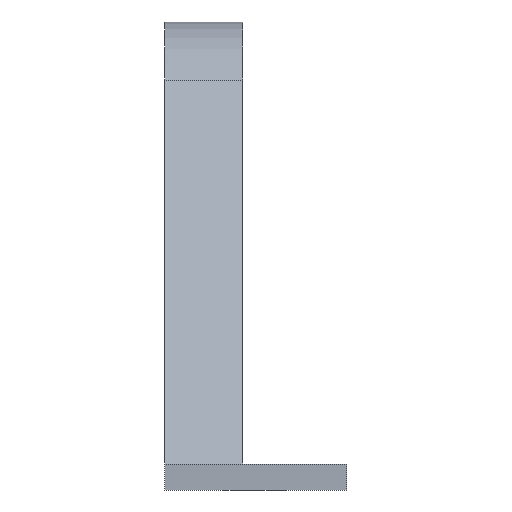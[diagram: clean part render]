
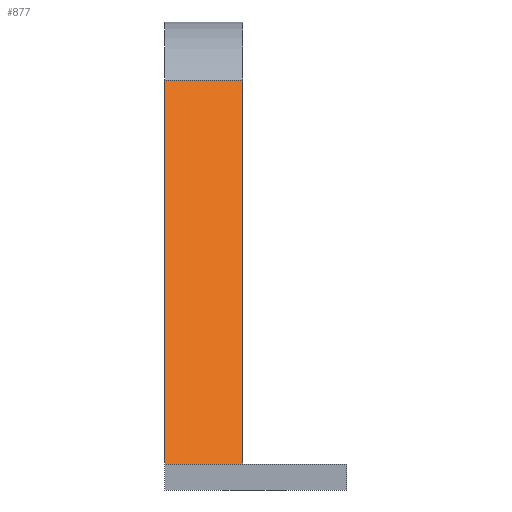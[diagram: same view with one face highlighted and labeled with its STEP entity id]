
A CAD part, front view. The second image highlights one B-rep face of the part: STEP entity #877.
In plain terms, the highlighted planar face has unit normal (0, -0.864, 0.504).
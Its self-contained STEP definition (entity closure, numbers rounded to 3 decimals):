
#72 = PLANE('',#73);
#73 = AXIS2_PLACEMENT_3D('',#74,#75,#76);
#74 = CARTESIAN_POINT('',(3.5,22.5,1.));
#75 = DIRECTION('',(0.,0.,1.));
#76 = DIRECTION('',(1.,0.,0.));
#195 = VERTEX_POINT('',#196);
#196 = CARTESIAN_POINT('',(0.,10.,1.));
#210 = PLANE('',#211);
#211 = AXIS2_PLACEMENT_3D('',#212,#213,#214);
#212 = CARTESIAN_POINT('',(0.,35.,1.));
#213 = DIRECTION('',(1.,0.,0.));
#214 = DIRECTION('',(0.,-1.,0.));
#482 = VERTEX_POINT('',#483);
#483 = CARTESIAN_POINT('',(3.,10.,1.));
#497 = PLANE('',#498);
#498 = AXIS2_PLACEMENT_3D('',#499,#500,#501);
#499 = CARTESIAN_POINT('',(3.,10.,1.));
#500 = DIRECTION('',(-1.,0.,0.));
#501 = DIRECTION('',(0.,1.,0.));
#509 = EDGE_CURVE('',#195,#482,#510,.T.);
#510 = SURFACE_CURVE('',#511,(#515,#522),.PCURVE_S1.);
#511 = LINE('',#512,#513);
#512 = CARTESIAN_POINT('',(0.,10.,1.));
#513 = VECTOR('',#514,1.);
#514 = DIRECTION('',(1.,0.,0.));
#515 = PCURVE('',#72,#516);
#516 = DEFINITIONAL_REPRESENTATION('',(#517),#521);
#517 = LINE('',#518,#519);
#518 = CARTESIAN_POINT('',(-3.5,-12.5));
#519 = VECTOR('',#520,1.);
#520 = DIRECTION('',(1.,0.));
#521 = ( GEOMETRIC_REPRESENTATION_CONTEXT(2) 
PARAMETRIC_REPRESENTATION_CONTEXT() REPRESENTATION_CONTEXT('2D SPACE',''
  ) );
#522 = PCURVE('',#523,#528);
#523 = PLANE('',#524);
#524 = AXIS2_PLACEMENT_3D('',#525,#526,#527);
#525 = CARTESIAN_POINT('',(0.,18.613,15.767));
#526 = DIRECTION('',(0.,0.864,-0.504));
#527 = DIRECTION('',(0.,-0.504,-0.864));
#528 = DEFINITIONAL_REPRESENTATION('',(#529),#533);
#529 = LINE('',#530,#531);
#530 = CARTESIAN_POINT('',(17.095,0.));
#531 = VECTOR('',#532,1.);
#532 = DIRECTION('',(0.,-1.));
#533 = ( GEOMETRIC_REPRESENTATION_CONTEXT(2) 
PARAMETRIC_REPRESENTATION_CONTEXT() REPRESENTATION_CONTEXT('2D SPACE',''
  ) );
#655 = VERTEX_POINT('',#656);
#656 = CARTESIAN_POINT('',(0.,18.613,15.767));
#675 = CYLINDRICAL_SURFACE('',#676,4.5);
#676 = AXIS2_PLACEMENT_3D('',#677,#678,#679);
#677 = CARTESIAN_POINT('',(0.,22.5,13.5));
#678 = DIRECTION('',(-1.,0.,0.));
#679 = DIRECTION('',(0.,-1.,0.));
#687 = EDGE_CURVE('',#655,#195,#688,.T.);
#688 = SURFACE_CURVE('',#689,(#693,#700),.PCURVE_S1.);
#689 = LINE('',#690,#691);
#690 = CARTESIAN_POINT('',(0.,18.613,15.767));
#691 = VECTOR('',#692,1.);
#692 = DIRECTION('',(0.,-0.504,-0.864));
#693 = PCURVE('',#210,#694);
#694 = DEFINITIONAL_REPRESENTATION('',(#695),#699);
#695 = LINE('',#696,#697);
#696 = CARTESIAN_POINT('',(16.387,-14.767));
#697 = VECTOR('',#698,1.);
#698 = DIRECTION('',(0.504,0.864));
#699 = ( GEOMETRIC_REPRESENTATION_CONTEXT(2) 
PARAMETRIC_REPRESENTATION_CONTEXT() REPRESENTATION_CONTEXT('2D SPACE',''
  ) );
#700 = PCURVE('',#523,#701);
#701 = DEFINITIONAL_REPRESENTATION('',(#702),#706);
#702 = LINE('',#703,#704);
#703 = CARTESIAN_POINT('',(0.,0.));
#704 = VECTOR('',#705,1.);
#705 = DIRECTION('',(1.,0.));
#706 = ( GEOMETRIC_REPRESENTATION_CONTEXT(2) 
PARAMETRIC_REPRESENTATION_CONTEXT() REPRESENTATION_CONTEXT('2D SPACE',''
  ) );
#877 = ADVANCED_FACE('',(#878),#523,.F.);
#878 = FACE_BOUND('',#879,.F.);
#879 = EDGE_LOOP('',(#880,#881,#904,#925));
#880 = ORIENTED_EDGE('',*,*,#687,.F.);
#881 = ORIENTED_EDGE('',*,*,#882,.T.);
#882 = EDGE_CURVE('',#655,#883,#885,.T.);
#883 = VERTEX_POINT('',#884);
#884 = CARTESIAN_POINT('',(3.,18.613,15.767));
#885 = SURFACE_CURVE('',#886,(#890,#897),.PCURVE_S1.);
#886 = LINE('',#887,#888);
#887 = CARTESIAN_POINT('',(0.,18.613,15.767));
#888 = VECTOR('',#889,1.);
#889 = DIRECTION('',(1.,0.,0.));
#890 = PCURVE('',#523,#891);
#891 = DEFINITIONAL_REPRESENTATION('',(#892),#896);
#892 = LINE('',#893,#894);
#893 = CARTESIAN_POINT('',(0.,0.));
#894 = VECTOR('',#895,1.);
#895 = DIRECTION('',(0.,-1.));
#896 = ( GEOMETRIC_REPRESENTATION_CONTEXT(2) 
PARAMETRIC_REPRESENTATION_CONTEXT() REPRESENTATION_CONTEXT('2D SPACE',''
  ) );
#897 = PCURVE('',#675,#898);
#898 = DEFINITIONAL_REPRESENTATION('',(#899),#903);
#899 = LINE('',#900,#901);
#900 = CARTESIAN_POINT('',(0.528,0.));
#901 = VECTOR('',#902,1.);
#902 = DIRECTION('',(0.,-1.));
#903 = ( GEOMETRIC_REPRESENTATION_CONTEXT(2) 
PARAMETRIC_REPRESENTATION_CONTEXT() REPRESENTATION_CONTEXT('2D SPACE',''
  ) );
#904 = ORIENTED_EDGE('',*,*,#905,.T.);
#905 = EDGE_CURVE('',#883,#482,#906,.T.);
#906 = SURFACE_CURVE('',#907,(#911,#918),.PCURVE_S1.);
#907 = LINE('',#908,#909);
#908 = CARTESIAN_POINT('',(3.,14.306,8.384));
#909 = VECTOR('',#910,1.);
#910 = DIRECTION('',(-0.,-0.504,-0.864));
#911 = PCURVE('',#523,#912);
#912 = DEFINITIONAL_REPRESENTATION('',(#913),#917);
#913 = LINE('',#914,#915);
#914 = CARTESIAN_POINT('',(8.548,-3.));
#915 = VECTOR('',#916,1.);
#916 = DIRECTION('',(1.,0.));
#917 = ( GEOMETRIC_REPRESENTATION_CONTEXT(2) 
PARAMETRIC_REPRESENTATION_CONTEXT() REPRESENTATION_CONTEXT('2D SPACE',''
  ) );
#918 = PCURVE('',#497,#919);
#919 = DEFINITIONAL_REPRESENTATION('',(#920),#924);
#920 = LINE('',#921,#922);
#921 = CARTESIAN_POINT('',(4.306,-7.384));
#922 = VECTOR('',#923,1.);
#923 = DIRECTION('',(-0.504,0.864));
#924 = ( GEOMETRIC_REPRESENTATION_CONTEXT(2) 
PARAMETRIC_REPRESENTATION_CONTEXT() REPRESENTATION_CONTEXT('2D SPACE',''
  ) );
#925 = ORIENTED_EDGE('',*,*,#509,.F.);
